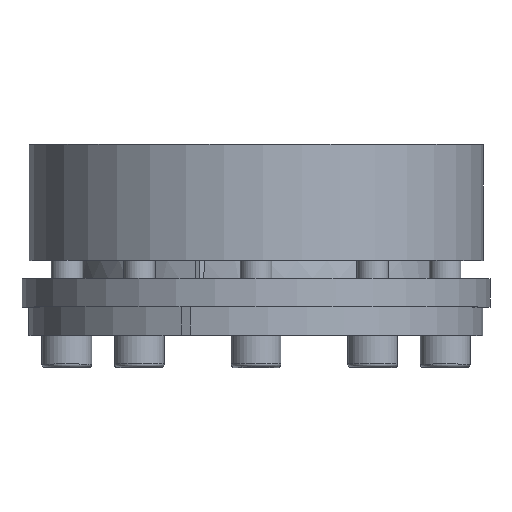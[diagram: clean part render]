
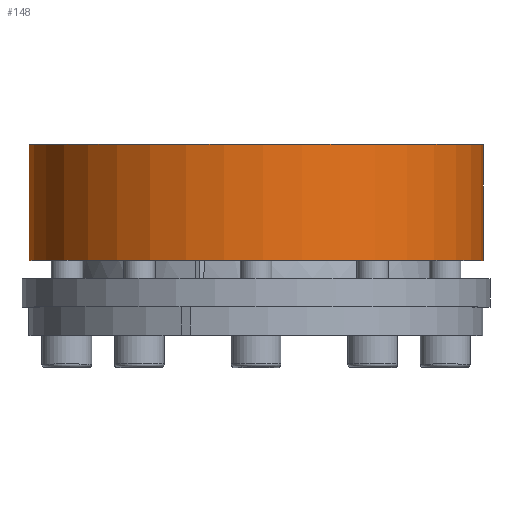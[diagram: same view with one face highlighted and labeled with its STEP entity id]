
A CAD part, top view. The second image highlights one B-rep face of the part: STEP entity #148.
In plain terms, the highlighted cylindrical face has radius 100 mm (diameter 200 mm), a partial arc.
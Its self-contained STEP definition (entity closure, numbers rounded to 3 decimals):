
#148 = ADVANCED_FACE( '', ( #339 ), #340, .T. );
#339 = FACE_OUTER_BOUND( '', #561, .T. );
#340 = CYLINDRICAL_SURFACE( '', #562, 100. );
#561 = EDGE_LOOP( '', ( #958, #959, #960, #961 ) );
#562 = AXIS2_PLACEMENT_3D( '', #962, #963, #964 );
#958 = ORIENTED_EDGE( '', *, *, #1270, .F. );
#959 = ORIENTED_EDGE( '', *, *, #1238, .T. );
#960 = ORIENTED_EDGE( '', *, *, #1206, .T. );
#961 = ORIENTED_EDGE( '', *, *, #1258, .F. );
#962 = CARTESIAN_POINT( '', ( 0., -60., 0. ) );
#963 = DIRECTION( '', ( 0., 1., 0. ) );
#964 = DIRECTION( '', ( 0., 0., -1. ) );
#1206 = EDGE_CURVE( '', #1471, #1472, #1473, .T. );
#1238 = EDGE_CURVE( '', #1517, #1471, #1520, .F. );
#1258 = EDGE_CURVE( '', #1549, #1472, #1550, .F. );
#1270 = EDGE_CURVE( '', #1517, #1549, #1563, .T. );
#1471 = VERTEX_POINT( '', #1873 );
#1472 = VERTEX_POINT( '', #1874 );
#1473 = CIRCLE( '', #1875, 100. );
#1517 = VERTEX_POINT( '', #1930 );
#1520 = LINE( '', #1937, #1938 );
#1549 = VERTEX_POINT( '', #1971 );
#1550 = LINE( '', #1972, #1973 );
#1563 = CIRCLE( '', #1994, 100. );
#1873 = CARTESIAN_POINT( '', ( 32.798, 84., -94.469 ) );
#1874 = CARTESIAN_POINT( '', ( 28.993, 84., -95.705 ) );
#1875 = AXIS2_PLACEMENT_3D( '', #2199, #2200, #2201 );
#1930 = CARTESIAN_POINT( '', ( 32.798, 33., -94.469 ) );
#1937 = CARTESIAN_POINT( '', ( 32.798, -60., -94.469 ) );
#1938 = VECTOR( '', #2238, 1000. );
#1971 = CARTESIAN_POINT( '', ( 28.993, 33., -95.705 ) );
#1972 = CARTESIAN_POINT( '', ( 28.993, -60., -95.705 ) );
#1973 = VECTOR( '', #2270, 1000. );
#1994 = AXIS2_PLACEMENT_3D( '', #2276, #2277, #2278 );
#2199 = CARTESIAN_POINT( '', ( 0., 84., 0. ) );
#2200 = DIRECTION( '', ( 0., -1., 0. ) );
#2201 = DIRECTION( '', ( 0., 0., -1. ) );
#2238 = DIRECTION( '', ( 0., -1., 0. ) );
#2270 = DIRECTION( '', ( 0., -1., 0. ) );
#2276 = CARTESIAN_POINT( '', ( 0., 33., 0. ) );
#2277 = DIRECTION( '', ( 0., -1., 0. ) );
#2278 = DIRECTION( '', ( 0., 0., -1. ) );
